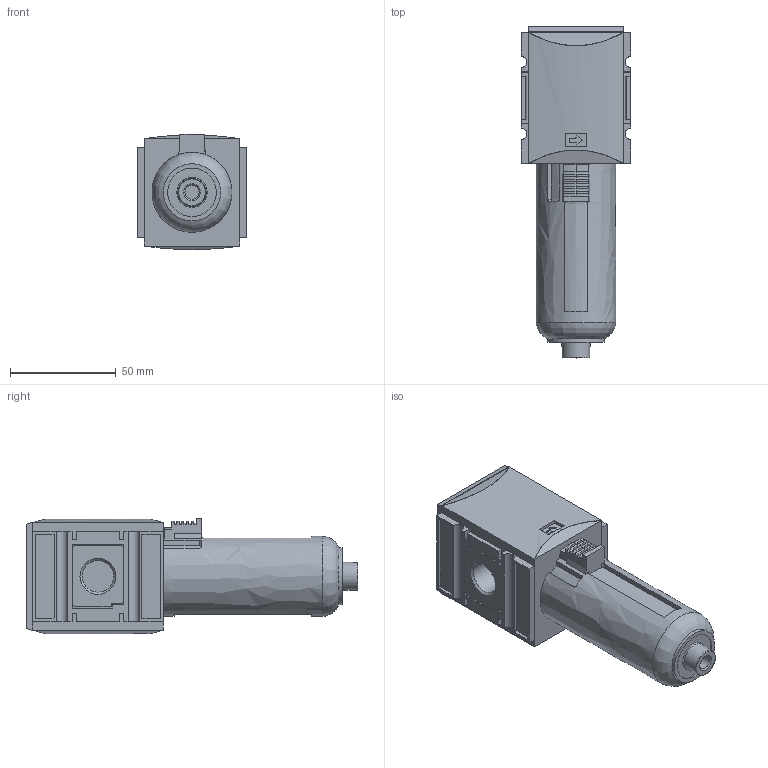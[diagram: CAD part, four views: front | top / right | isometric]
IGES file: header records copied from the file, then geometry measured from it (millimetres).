
Start section: Data from Parasolid IGES Translator 17.0.49, Copyright(c) 2006 Siemens P LM Software. All Rights Reserved.
Global section: file name: FU 892.igs; native system: By Siemens PLM Incorporated; preprocessor: XPlus GENERIC/IGES 17.0.49; author: Noname; organization: Noname; date: 20170112.144905; units: millimetre
Bounding box: 52 x 157 x 54.5 mm (x, y, z)
Surface area: 36158.4 mm2 (no closed solid volume)
Topology: 0 solids, 0 shells, 278 faces, 1488 edges, 1467 vertices
Faces by surface type: extrusion 190, revolution 88
